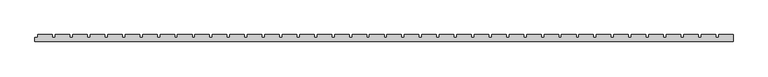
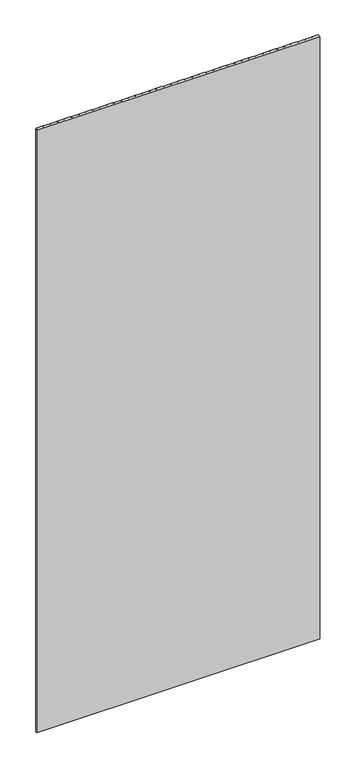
"""IFC4 building model written with IfcOpenShell, lengths in millimetres: proxy geometry, 30 12mmSC."""

from ifc_helpers import new_model, si_unit, origin, origin_with_axes, place, context, project, spatial, polyline, outline, extrude, source, transform, mapped, element, save


def generic_models_8e4aa753(model_context):
    return source(origin(), model_context, "Body", "SweptSolid", [
        extrude(outline(polyline([(2875.0, -8665.7390263), (2900.0, -8665.7390263), (2900.0, -8677.7390263), (1700.0, -8677.7390263), (1700.0, -8670.7390263), (1705.0, -8670.7390263), (1705.0, -8665.7390263), (1730.0, -8665.7390263), (1730.0, -8670.7390263), (1735.0, -8670.7390263), (1735.0, -8665.7390263), (1760.0, -8665.7390263), (1760.0, -8670.7390263), (1765.0, -8670.7390263), (1765.0, -8665.7390263), (1790.0, -8665.7390263), (1790.0, -8670.7390263), (1795.0, -8670.7390263), (1795.0, -8665.7390263), (1820.0, -8665.7390263), (1820.0, -8670.7390263), (1825.0, -8670.7390263), (1825.0, -8665.7390263), (1850.0, -8665.7390263), (1850.0, -8670.7390263), (1855.0, -8670.7390263), (1855.0, -8665.7390263), (1880.0, -8665.7390263), (1880.0, -8670.7390263), (1885.0, -8670.7390263), (1885.0, -8665.7390263), (1910.0, -8665.7390263), (1910.0, -8670.7390263), (1915.0, -8670.7390263), (1915.0, -8665.7390263), (1940.0, -8665.7390263), (1940.0, -8670.7390263), (1945.0, -8670.7390263), (1945.0, -8665.7390263), (1970.0, -8665.7390263), (1970.0, -8670.7390263), (1975.0, -8670.7390263), (1975.0, -8665.7390263), (2000.0, -8665.7390263), (2000.0, -8670.7390263), (2005.0, -8670.7390263), (2005.0, -8665.7390263), (2030.0, -8665.7390263), (2030.0, -8670.7390263), (2035.0, -8670.7390263), (2035.0, -8665.7390263), (2060.0, -8665.7390263), (2060.0, -8670.7390263), (2065.0, -8670.7390263), (2065.0, -8665.7390263), (2090.0, -8665.7390263), (2090.0, -8670.7390263), (2095.0, -8670.7390263), (2095.0, -8665.7390263), (2120.0, -8665.7390263), (2120.0, -8670.7390263), (2125.0, -8670.7390263), (2125.0, -8665.7390263), (2150.0, -8665.7390263), (2150.0, -8670.7390263), (2155.0, -8670.7390263), (2155.0, -8665.7390263), (2180.0, -8665.7390263), (2180.0, -8670.7390263), (2185.0, -8670.7390263), (2185.0, -8665.7390263), (2210.0, -8665.7390263), (2210.0, -8670.7390263), (2215.0, -8670.7390263), (2215.0, -8665.7390263), (2240.0, -8665.7390263), (2240.0, -8670.7390263), (2245.0, -8670.7390263), (2245.0, -8665.7390263), (2270.0, -8665.7390263), (2270.0, -8670.7390263), (2275.0, -8670.7390263), (2275.0, -8665.7390263), (2300.0, -8665.7390263), (2300.0, -8670.7390263), (2305.0, -8670.7390263), (2305.0, -8665.7390263), (2330.0, -8665.7390263), (2330.0, -8670.7390263), (2335.0, -8670.7390263), (2335.0, -8665.7390263), (2360.0, -8665.7390263), (2360.0, -8670.7390263), (2365.0, -8670.7390263), (2365.0, -8665.7390263), (2390.0, -8665.7390263), (2390.0, -8670.7390263), (2395.0, -8670.7390263), (2395.0, -8665.7390263), (2420.0, -8665.7390263), (2420.0, -8670.7390263), (2425.0, -8670.7390263), (2425.0, -8665.7390263), (2450.0, -8665.7390263), (2450.0, -8670.7390263), (2455.0, -8670.7390263), (2455.0, -8665.7390263), (2480.0, -8665.7390263), (2480.0, -8670.7390263), (2485.0, -8670.7390263), (2485.0, -8665.7390263), (2510.0, -8665.7390263), (2510.0, -8670.7390263), (2515.0, -8670.7390263), (2515.0, -8665.7390263), (2540.0, -8665.7390263), (2540.0, -8670.7390263), (2545.0, -8670.7390263), (2545.0, -8665.7390263), (2570.0, -8665.7390263), (2570.0, -8670.7390263), (2575.0, -8670.7390263), (2575.0, -8665.7390263), (2600.0, -8665.7390263), (2600.0, -8670.7390263), (2605.0, -8670.7390263), (2605.0, -8665.7390263), (2630.0, -8665.7390263), (2630.0, -8670.7390263), (2635.0, -8670.7390263), (2635.0, -8665.7390263), (2660.0, -8665.7390263), (2660.0, -8670.7390263), (2665.0, -8670.7390263), (2665.0, -8665.7390263), (2690.0, -8665.7390263), (2690.0, -8670.7390263), (2695.0, -8670.7390263), (2695.0, -8665.7390263), (2720.0, -8665.7390263), (2720.0, -8670.7390263), (2725.0, -8670.7390263), (2725.0, -8665.7390263), (2750.0, -8665.7390263), (2750.0, -8670.7390263), (2755.0, -8670.7390263), (2755.0, -8665.7390263), (2780.0, -8665.7390263), (2780.0, -8670.7390263), (2785.0, -8670.7390263), (2785.0, -8665.7390263), (2810.0, -8665.7390263), (2810.0, -8670.7390263), (2815.0, -8670.7390263), (2815.0, -8665.7390263), (2840.0, -8665.7390263), (2840.0, -8670.7390263), (2845.0, -8670.7390263), (2845.0, -8665.7390263), (2870.0, -8665.7390263), (2870.0, -8670.7390263), (2875.0, -8670.7390263), (2875.0, -8665.7390263)])), origin_with_axes(), (0.0, 0.0, 1.0), 2700.0),
    ])


if __name__ == "__main__":
    model = new_model("IFC4")
    model_context = context("Model", 3, world=origin())
    ifc_project = project(units=[si_unit("LENGTHUNIT", "METRE", prefix="MILLI")], contexts=[model_context])
    site = spatial("IfcSite", under=ifc_project)
    building = spatial("IfcBuilding", under=site)
    placement = place(None, origin())
    generic_models_shape = generic_models_8e4aa753(model_context)
    element("IfcBuildingElementProxy", 1, Name="30 12mmSC", ObjectType="30 12mmSC", at=placement, inside=building, context=model_context, shape_type="MappedRepresentation", body=[
        mapped(generic_models_shape, transform((0.0, 0.0, 0.0), x_axis=(1.0, 0.0, 0.0), y_axis=(0.0, 1.0, 0.0), z_axis=(0.0, 0.0, 1.0))),
    ])
    save(model, "model.ifc")
